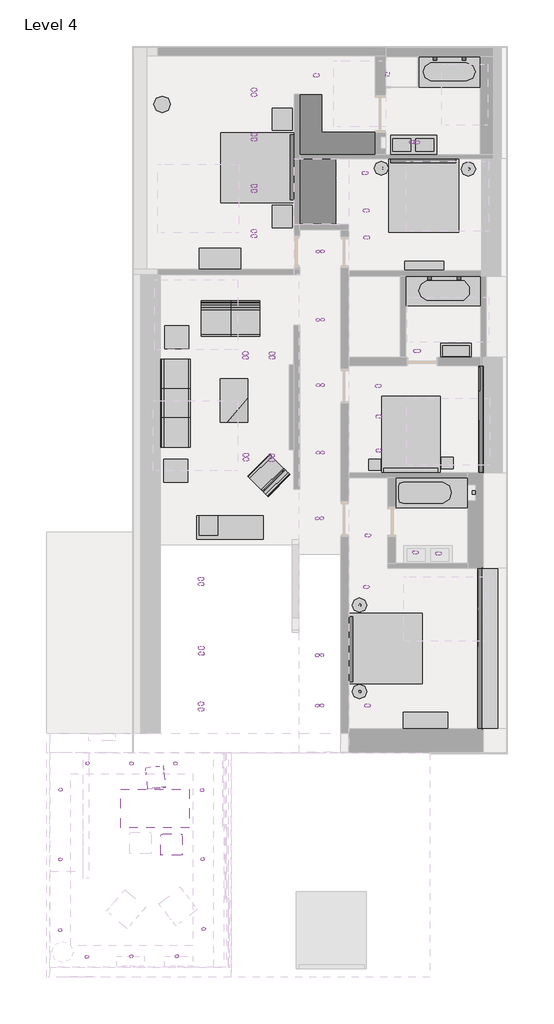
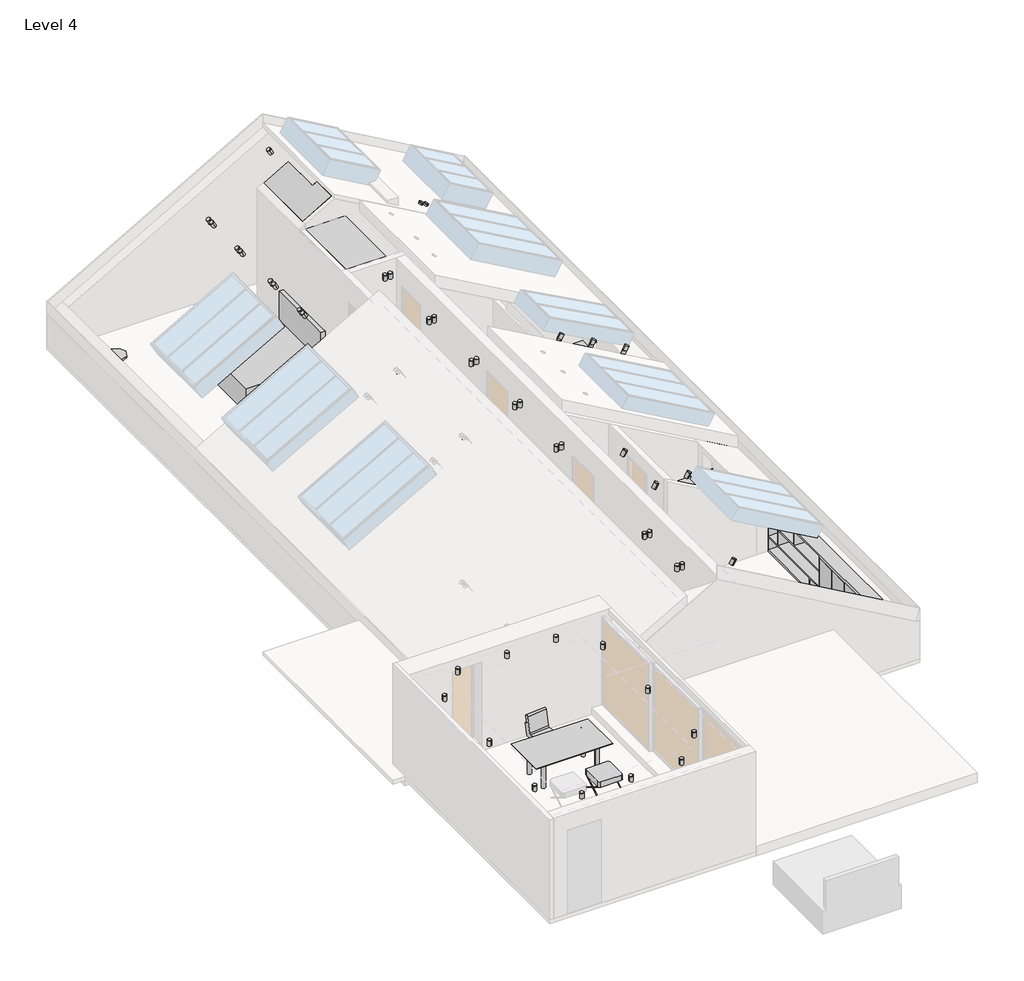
# One storey, part 5 of 5: 76 light fixtures, 32 furniture elements, 5 flow terminals.
"""IFC4 building model written with IfcOpenShell, lengths in millimetres."""

from ifc_helpers import new_model, si_unit, origin, place, context, project, spatial, transform, mapped, element, save
from components import bathtub_01_bathtub_01_98538b22, bathtub_02_bathtub_02_2609c528, bathtub_03_bathtub_03_c426ee23, sink_03_sink_03_69375492, sink_04_sink_04_ce592024, bed_01_bed_01_c8895752, bed_03_bed_03_54b4fd3d, cabinet_cabinet_2f99e284, cabinet_002_cabinet_002_ebadd603, cabinet_1_cabinet_03_9e102cc1, cabinet_3_cabinet_03_0b43aa0a, cabinet_4_cabinet_04_f39191a7, chair_08_chair_08_bae2807b, chair_1_chair_02_2_ef072ba1, chair_1_chair_04_2_7db89e4d, chair_3_chair_06_9fddb003, furniture_02_furniture_02_fe2f7198, furniture_03_furniture_03_c5ecfdc4, furniture_04_furniture_04_b9c663bc, furniture_07_furniture_07_b3681a4d, table_1_table_05_2_f3671101, table_1_table_06_2_fc088d78, table_4_table_02_2cdb1567, table_5_table_07_c8219046, wardrobe_wardrobe_651819e2, downlight_01_standard_4b9499b6, lighting_01_standard_0bba7b14, lighting_03_standard_1bcd569f, lighting_03_standard_314ac76f, lighting_03_standard_dff19e4f, lighting_03_standard_27dd422e

model = new_model("IFC4")

# Units and contexts
model_context = context("Model", 3, world=origin())
ifc_project = project(units=[si_unit("LENGTHUNIT", "METRE", prefix="MILLI")], contexts=[model_context])

# Site, building, storey
site = spatial("IfcSite", under=ifc_project)
building = spatial("IfcBuilding", under=site)
storey = spatial("IfcBuildingStorey", under=building, Name="Level 4", Elevation=8080.0)

# Flow terminals
placement = place(None, origin())
bathtub_01_bathtub_01_shape = bathtub_01_bathtub_01_98538b22(model_context)
element("IfcFlowTerminal", 1, ObjectType="Bathtub_01 : Bathtub_01", at=placement, inside=storey, context=model_context, shape_type="MappedRepresentation", body=[
    mapped(bathtub_01_bathtub_01_shape, transform((0.0, 0.0, 0.0), x_axis=(1.0, 0.0, 0.0), y_axis=(0.0, 1.0, 0.0), z_axis=(0.0, 0.0, 1.0))),
])
bathtub_02_bathtub_02_shape = bathtub_02_bathtub_02_2609c528(model_context)
element("IfcFlowTerminal", 2, ObjectType="Bathtub_02 : Bathtub_02", at=placement, inside=storey, context=model_context, shape_type="MappedRepresentation", body=[
    mapped(bathtub_02_bathtub_02_shape, transform((0.0, 0.0, 0.0), x_axis=(1.0, 0.0, 0.0), y_axis=(0.0, 1.0, 0.0), z_axis=(0.0, 0.0, 1.0))),
])
bathtub_03_bathtub_03_shape = bathtub_03_bathtub_03_c426ee23(model_context)
element("IfcFlowTerminal", 3, ObjectType="Bathtub_03 : Bathtub_03", at=placement, inside=storey, context=model_context, shape_type="MappedRepresentation", body=[
    mapped(bathtub_03_bathtub_03_shape, transform((0.0, 0.0, 0.0), x_axis=(1.0, 0.0, 0.0), y_axis=(0.0, 1.0, 0.0), z_axis=(0.0, 0.0, 1.0))),
])
sink_03_sink_03_shape = sink_03_sink_03_69375492(model_context)
element("IfcFlowTerminal", 4, ObjectType="Sink_03 : Sink_03", at=placement, inside=storey, context=model_context, shape_type="MappedRepresentation", body=[
    mapped(sink_03_sink_03_shape, transform((0.0, 0.0, 0.0), x_axis=(1.0, 0.0, 0.0), y_axis=(0.0, 1.0, 0.0), z_axis=(0.0, 0.0, 1.0))),
])
sink_04_sink_04_shape = sink_04_sink_04_ce592024(model_context)
element("IfcFlowTerminal", 5, ObjectType="Sink_04 : Sink_04", at=placement, inside=storey, context=model_context, shape_type="MappedRepresentation", body=[
    mapped(sink_04_sink_04_shape, transform((5014.1379955, 32034.2650768, 0.0), x_axis=(-1.0, 0.0, 0.0), y_axis=(0.0, -1.0, 0.0), z_axis=(0.0, 0.0, 1.0))),
])

# Furniture
bed_01_bed_01_shape = bed_01_bed_01_c8895752(model_context)
element("IfcFurniture", 6, ObjectType="Bed_01 : Bed_01", at=placement, inside=storey, context=model_context, shape_type="MappedRepresentation", body=[
    mapped(bed_01_bed_01_shape, transform((1579.9371218, 7712.299651, 8080.0), x_axis=(0.0, -1.0, 0.0), y_axis=(1.0, 0.0, 0.0), z_axis=(0.0, 0.0, 1.0))),
])
element("IfcFurniture", 7, ObjectType="Bed_01 : Bed_01", at=placement, inside=storey, context=model_context, shape_type="MappedRepresentation", body=[
    mapped(bed_01_bed_01_shape, transform((2593.3098726, 20237.0775552, 8080.0), x_axis=(-1.0, 0.0, 0.0), y_axis=(0.0, -1.0, 0.0), z_axis=(0.0, 0.0, 1.0))),
])
element("IfcFurniture", 8, ObjectType="Bed_01 : Bed_01", at=placement, inside=storey, context=model_context, shape_type="MappedRepresentation", body=[
    mapped(bed_01_bed_01_shape, transform((-2076.2192271, 21062.6068616, 8080.0), x_axis=(0.0, 1.0, 0.0), y_axis=(-1.0, 0.0, 0.0), z_axis=(0.0, 0.0, 1.0))),
])
bed_03_bed_03_shape = bed_03_bed_03_54b4fd3d(model_context)
element("IfcFurniture", 9, ObjectType="Bed_03 : Bed_03", at=placement, inside=storey, context=model_context, shape_type="MappedRepresentation", body=[
    mapped(bed_03_bed_03_shape, transform((2078.4665483, 13674.1181259, 8080.0), x_axis=(1.0, 0.0, 0.0), y_axis=(0.0, 1.0, 0.0), z_axis=(0.0, 0.0, 1.0))),
])
cabinet_cabinet_shape = cabinet_cabinet_2f99e284(model_context)
element("IfcFurniture", 10, ObjectType="Cabinet : Cabinet", at=placement, inside=storey, context=model_context, shape_type="MappedRepresentation", body=[
    mapped(cabinet_cabinet_shape, transform((0.0, 0.0, 0.0), x_axis=(1.0, 0.0, 0.0), y_axis=(0.0, 1.0, 0.0), z_axis=(0.0, 0.0, 1.0))),
])
cabinet_002_cabinet_002_shape = cabinet_002_cabinet_002_ebadd603(model_context)
element("IfcFurniture", 11, ObjectType="Cabinet_002 : Cabinet_002", at=placement, inside=storey, context=model_context, shape_type="MappedRepresentation", body=[
    mapped(cabinet_002_cabinet_002_shape, transform((0.0, 0.0, 0.0), x_axis=(1.0, 0.0, 0.0), y_axis=(0.0, 1.0, 0.0), z_axis=(0.0, 0.0, 1.0))),
])
cabinet_1_cabinet_03_shape = cabinet_1_cabinet_03_9e102cc1(model_context)
element("IfcFurniture", 12, ObjectType="Cabinet_1 : Cabinet_03", at=placement, inside=storey, context=model_context, shape_type="MappedRepresentation", body=[
    mapped(cabinet_1_cabinet_03_shape, transform((0.0, 0.0, 0.0), x_axis=(1.0, 0.0, 0.0), y_axis=(0.0, 1.0, 0.0), z_axis=(0.0, 0.0, 1.0))),
])
cabinet_3_cabinet_03_shape = cabinet_3_cabinet_03_0b43aa0a(model_context)
element("IfcFurniture", 13, ObjectType="Cabinet_3 : Cabinet_03", at=placement, inside=storey, context=model_context, shape_type="MappedRepresentation", body=[
    mapped(cabinet_3_cabinet_03_shape, transform((0.0, 0.0, 0.0), x_axis=(1.0, 0.0, 0.0), y_axis=(0.0, 1.0, 0.0), z_axis=(0.0, 0.0, 1.0))),
])
cabinet_4_cabinet_04_shape = cabinet_4_cabinet_04_f39191a7(model_context)
element("IfcFurniture", 14, ObjectType="Cabinet_4 : Cabinet_04", at=placement, inside=storey, context=model_context, shape_type="MappedRepresentation", body=[
    mapped(cabinet_4_cabinet_04_shape, transform((0.0, 0.0, 0.0), x_axis=(1.0, 0.0, 0.0), y_axis=(0.0, 1.0, 0.0), z_axis=(0.0, 0.0, 1.0))),
])
chair_08_chair_08_shape = chair_08_chair_08_bae2807b(model_context)
element("IfcFurniture", 15, ObjectType="Chair_08 : Chair_08", at=placement, inside=storey, context=model_context, shape_type="MappedRepresentation", body=[
    mapped(chair_08_chair_08_shape, transform((-2365.9018119, 16880.1471222, 8080.0), x_axis=(1.0, 0.0, 0.0), y_axis=(0.0, 1.0, 0.0), z_axis=(0.0, 0.0, 1.0))),
])
element("IfcFurniture", 16, ObjectType="Chair_08 : Chair_08", at=placement, inside=storey, context=model_context, shape_type="MappedRepresentation", body=[
    mapped(chair_08_chair_08_shape, transform((-3174.517635, 16880.1471222, 8080.0), x_axis=(1.0, 0.0, 0.0), y_axis=(0.0, 1.0, 0.0), z_axis=(0.0, 0.0, 1.0))),
])
element("IfcFurniture", 17, ObjectType="Chair_08 : Chair_08", at=placement, inside=storey, context=model_context, shape_type="MappedRepresentation", body=[
    mapped(chair_08_chair_08_shape, transform((-4386.171498, 15341.0290998, 8080.0), x_axis=(0.0, 1.0, 0.0), y_axis=(-1.0, 0.0, 0.0), z_axis=(0.0, 0.0, 1.0))),
])
element("IfcFurniture", 18, ObjectType="Chair_08 : Chair_08", at=placement, inside=storey, context=model_context, shape_type="MappedRepresentation", body=[
    mapped(chair_08_chair_08_shape, transform((-4386.171498, 14521.0290998, 8080.0), x_axis=(0.0, 1.0, 0.0), y_axis=(-1.0, 0.0, 0.0), z_axis=(0.0, 0.0, 1.0))),
])
element("IfcFurniture", 19, ObjectType="Chair_08 : Chair_08", at=placement, inside=storey, context=model_context, shape_type="MappedRepresentation", body=[
    mapped(chair_08_chair_08_shape, transform((-4386.171498, 13712.4132767, 8080.0), x_axis=(0.0, 1.0, 0.0), y_axis=(-1.0, 0.0, 0.0), z_axis=(0.0, 0.0, 1.0))),
])
chair_1_chair_02_2_shape = chair_1_chair_02_2_ef072ba1(model_context)
element("IfcFurniture", 20, ObjectType="Chair_1 : Chair_02 2", at=placement, inside=storey, context=model_context, shape_type="MappedRepresentation", body=[
    mapped(chair_1_chair_02_2_shape, transform((-4405.2798738, 2269.0749211, 9443.5688055), x_axis=(1.0, 0.0, 0.0), y_axis=(0.0, 1.0, 0.0), z_axis=(0.0, 0.0, 1.0))),
])
chair_1_chair_04_2_shape = chair_1_chair_04_2_7db89e4d(model_context)
element("IfcFurniture", 21, ObjectType="Chair_1 : Chair_04 2", at=placement, inside=storey, context=model_context, shape_type="MappedRepresentation", body=[
    mapped(chair_1_chair_04_2_shape, transform((-4853.9173496, 4128.8623525, 9440.0), x_axis=(1.0, 0.0, 0.0), y_axis=(0.0, 1.0, 0.0), z_axis=(0.0, 0.0, 1.0))),
])
chair_3_chair_06_shape = chair_3_chair_06_9fddb003(model_context)
element("IfcFurniture", 22, ObjectType="Chair_3 : Chair_06", at=placement, inside=storey, context=model_context, shape_type="MappedRepresentation", body=[
    mapped(chair_3_chair_06_shape, transform((0.0, 0.0, 0.0), x_axis=(1.0, 0.0, 0.0), y_axis=(0.0, 1.0, 0.0), z_axis=(0.0, 0.0, 1.0))),
])
furniture_02_furniture_02_shape = furniture_02_furniture_02_fe2f7198(model_context)
element("IfcFurniture", 23, ObjectType="Furniture_02 : Furniture_02", at=placement, inside=storey, context=model_context, shape_type="MappedRepresentation", body=[
    mapped(furniture_02_furniture_02_shape, transform((3244.9243543, 12864.2532922, 8085.0), x_axis=(1.0, 0.0, 0.0), y_axis=(0.0, 1.0, 0.0), z_axis=(0.0, 0.0, 1.0))),
])
element("IfcFurniture", 24, ObjectType="Furniture_02 : Furniture_02", at=placement, inside=storey, context=model_context, shape_type="MappedRepresentation", body=[
    mapped(furniture_02_furniture_02_shape, transform((1229.9243543, 12819.2532922, 8085.0), x_axis=(1.0, 0.0, 0.0), y_axis=(0.0, 1.0, 0.0), z_axis=(0.0, 0.0, 1.0))),
])
furniture_03_furniture_03_shape = furniture_03_furniture_03_c5ecfdc4(model_context)
element("IfcFurniture", 25, ObjectType="Furniture_03 : Furniture_03", at=placement, inside=storey, context=model_context, shape_type="MappedRepresentation", body=[
    mapped(furniture_03_furniture_03_shape, transform((0.0, 0.0, 0.0), x_axis=(1.0, 0.0, 0.0), y_axis=(0.0, 1.0, 0.0), z_axis=(0.0, 0.0, 1.0))),
])
furniture_04_furniture_04_shape = furniture_04_furniture_04_b9c663bc(model_context)
element("IfcFurniture", 26, ObjectType="Furniture_04 : Furniture_04", at=placement, inside=storey, context=model_context, shape_type="MappedRepresentation", body=[
    mapped(furniture_04_furniture_04_shape, transform((0.0, 0.0, 0.0), x_axis=(1.0, 0.0, 0.0), y_axis=(0.0, 1.0, 0.0), z_axis=(0.0, 0.0, 1.0))),
])
furniture_07_furniture_07_shape = furniture_07_furniture_07_b3681a4d(model_context)
element("IfcFurniture", 27, ObjectType="Furniture_07 : Furniture_07", at=placement, inside=storey, context=model_context, shape_type="MappedRepresentation", body=[
    mapped(furniture_07_furniture_07_shape, transform((-4297.8408122, 12651.8815512, 8080.0), x_axis=(1.0, 0.0, 0.0), y_axis=(0.0, 1.0, 0.0), z_axis=(0.0, 0.0, 1.0))),
])
element("IfcFurniture", 28, ObjectType="Furniture_07 : Furniture_07", at=placement, inside=storey, context=model_context, shape_type="MappedRepresentation", body=[
    mapped(furniture_07_furniture_07_shape, transform((-4267.8408122, 16356.8815512, 8080.0), x_axis=(1.0, 0.0, 0.0), y_axis=(0.0, 1.0, 0.0), z_axis=(0.0, 0.0, 1.0))),
])
table_1_table_05_2_shape = table_1_table_05_2_f3671101(model_context)
element("IfcFurniture", 29, ObjectType="Table_1 : Table_05 2", at=placement, inside=storey, context=model_context, shape_type="MappedRepresentation", body=[
    mapped(table_1_table_05_2_shape, transform((808.551266, 6519.1217433, 8080.0), x_axis=(1.0, 0.0, 0.0), y_axis=(0.0, 1.0, 0.0), z_axis=(0.0, 0.0, 1.0))),
])
element("IfcFurniture", 30, ObjectType="Table_1 : Table_05 2", at=placement, inside=storey, context=model_context, shape_type="MappedRepresentation", body=[
    mapped(table_1_table_05_2_shape, transform((808.551266, 8919.1217433, 8080.0), x_axis=(1.0, 0.0, 0.0), y_axis=(0.0, 1.0, 0.0), z_axis=(0.0, 0.0, 1.0))),
])
element("IfcFurniture", 31, ObjectType="Table_1 : Table_05 2", at=placement, inside=storey, context=model_context, shape_type="MappedRepresentation", body=[
    mapped(table_1_table_05_2_shape, transform((1417.051135, 21048.7581238, 8080.0), x_axis=(1.0, 0.0, 0.0), y_axis=(0.0, 1.0, 0.0), z_axis=(0.0, 0.0, 1.0))),
])
element("IfcFurniture", 32, ObjectType="Table_1 : Table_05 2", at=placement, inside=storey, context=model_context, shape_type="MappedRepresentation", body=[
    mapped(table_1_table_05_2_shape, transform((3832.051135, 21028.7581238, 8080.0), x_axis=(1.0, 0.0, 0.0), y_axis=(0.0, 1.0, 0.0), z_axis=(0.0, 0.0, 1.0))),
])
table_1_table_06_2_shape = table_1_table_06_2_fc088d78(model_context)
element("IfcFurniture", 33, ObjectType="Table_1 : Table_06 2", at=placement, inside=storey, context=model_context, shape_type="MappedRepresentation", body=[
    mapped(table_1_table_06_2_shape, transform((-1337.1791365, 19708.449556, 8080.0), x_axis=(1.0, 0.0, 0.0), y_axis=(0.0, 1.0, 0.0), z_axis=(0.0, 0.0, 1.0))),
])
element("IfcFurniture", 34, ObjectType="Table_1 : Table_06 2", at=placement, inside=storey, context=model_context, shape_type="MappedRepresentation", body=[
    mapped(table_1_table_06_2_shape, transform((-1337.1791365, 22408.449556, 8080.0), x_axis=(1.0, 0.0, 0.0), y_axis=(0.0, 1.0, 0.0), z_axis=(0.0, 0.0, 1.0))),
])
table_4_table_02_shape = table_4_table_02_2cdb1567(model_context)
element("IfcFurniture", 35, ObjectType="Table_4 : Table_02", at=placement, inside=storey, context=model_context, shape_type="MappedRepresentation", body=[
    mapped(table_4_table_02_shape, transform((0.0, 0.0, 0.0), x_axis=(1.0, 0.0, 0.0), y_axis=(0.0, 1.0, 0.0), z_axis=(0.0, 0.0, 1.0))),
])
table_5_table_07_shape = table_5_table_07_c8219046(model_context)
element("IfcFurniture", 36, ObjectType="Table_5 : Table_07", at=placement, inside=storey, context=model_context, shape_type="MappedRepresentation", body=[
    mapped(table_5_table_07_shape, transform((0.0, 0.0, 0.0), x_axis=(1.0, 0.0, 0.0), y_axis=(0.0, 1.0, 0.0), z_axis=(0.0, 0.0, 1.0))),
])
wardrobe_wardrobe_shape = wardrobe_wardrobe_651819e2(model_context)
element("IfcFurniture", 37, ObjectType="Wardrobe : Wardrobe", at=placement, inside=storey, context=model_context, shape_type="MappedRepresentation", body=[
    mapped(wardrobe_wardrobe_shape, transform((0.0, 0.0, 0.0), x_axis=(1.0, 0.0, 0.0), y_axis=(0.0, 1.0, 0.0), z_axis=(0.0, 0.0, 1.0))),
])

# Light fixtures
downlight_01_standard_shape = downlight_01_standard_4b9499b6(model_context)
element("IfcLightFixture", 38, ObjectType="Downlight _01 : Standard", at=placement, inside=storey, context=model_context, shape_type="MappedRepresentation", body=[
    mapped(downlight_01_standard_shape, transform((-6840.5019919, 9595.5198069, 6326.6), x_axis=(1.0, 0.0, 0.0), y_axis=(0.0, 1.0, 0.0), z_axis=(0.0, 0.0, 1.0))),
])
element("IfcLightFixture", 39, ObjectType="Downlight _01 : Standard", at=placement, inside=storey, context=model_context, shape_type="MappedRepresentation", body=[
    mapped(downlight_01_standard_shape, transform((-6700.5019919, 9595.5198069, 6326.6), x_axis=(1.0, 0.0, 0.0), y_axis=(0.0, 1.0, 0.0), z_axis=(0.0, 0.0, 1.0))),
])
element("IfcLightFixture", 40, ObjectType="Downlight _01 : Standard", at=placement, inside=storey, context=model_context, shape_type="MappedRepresentation", body=[
    mapped(downlight_01_standard_shape, transform((-6860.5019919, 7665.5198069, 6326.6), x_axis=(1.0, 0.0, 0.0), y_axis=(0.0, 1.0, 0.0), z_axis=(0.0, 0.0, 1.0))),
])
element("IfcLightFixture", 41, ObjectType="Downlight _01 : Standard", at=placement, inside=storey, context=model_context, shape_type="MappedRepresentation", body=[
    mapped(downlight_01_standard_shape, transform((-6720.5019919, 7665.5198069, 6326.6), x_axis=(1.0, 0.0, 0.0), y_axis=(0.0, 1.0, 0.0), z_axis=(0.0, 0.0, 1.0))),
])
element("IfcLightFixture", 42, ObjectType="Downlight _01 : Standard", at=placement, inside=storey, context=model_context, shape_type="MappedRepresentation", body=[
    mapped(downlight_01_standard_shape, transform((-6948.4263983, 5947.8221885, 6326.6), x_axis=(1.0, 0.0, 0.0), y_axis=(0.0, 1.0, 0.0), z_axis=(0.0, 0.0, 1.0))),
])
element("IfcLightFixture", 43, ObjectType="Downlight _01 : Standard", at=placement, inside=storey, context=model_context, shape_type="MappedRepresentation", body=[
    mapped(downlight_01_standard_shape, transform((-6808.4263983, 5947.8221885, 6326.6), x_axis=(1.0, 0.0, 0.0), y_axis=(0.0, 1.0, 0.0), z_axis=(0.0, 0.0, 1.0))),
])
element("IfcLightFixture", 44, ObjectType="Downlight _01 : Standard", at=placement, inside=storey, context=model_context, shape_type="MappedRepresentation", body=[
    mapped(downlight_01_standard_shape, transform((-3516.3974698, -74.4112752, 9501.6), x_axis=(1.0, 0.0, 0.0), y_axis=(0.0, 1.0, 0.0), z_axis=(0.0, 0.0, 1.0))),
])
element("IfcLightFixture", 45, ObjectType="Downlight _01 : Standard", at=placement, inside=storey, context=model_context, shape_type="MappedRepresentation", body=[
    mapped(downlight_01_standard_shape, transform((-3546.3974698, 1865.5887248, 9501.6), x_axis=(1.0, 0.0, 0.0), y_axis=(0.0, 1.0, 0.0), z_axis=(0.0, 0.0, 1.0))),
])
element("IfcLightFixture", 46, ObjectType="Downlight _01 : Standard", at=placement, inside=storey, context=model_context, shape_type="MappedRepresentation", body=[
    mapped(downlight_01_standard_shape, transform((-3561.3974698, 3780.5887248, 9501.6), x_axis=(1.0, 0.0, 0.0), y_axis=(0.0, 1.0, 0.0), z_axis=(0.0, 0.0, 1.0))),
])
element("IfcLightFixture", 47, ObjectType="Downlight _01 : Standard", at=placement, inside=storey, context=model_context, shape_type="MappedRepresentation", body=[
    mapped(downlight_01_standard_shape, transform((-4301.3974698, 4520.5887248, 9501.6), x_axis=(1.0, 0.0, 0.0), y_axis=(0.0, 1.0, 0.0), z_axis=(0.0, 0.0, 1.0))),
])
element("IfcLightFixture", 48, ObjectType="Downlight _01 : Standard", at=placement, inside=storey, context=model_context, shape_type="MappedRepresentation", body=[
    mapped(downlight_01_standard_shape, transform((-5521.3974698, 4520.5887248, 9501.6), x_axis=(1.0, 0.0, 0.0), y_axis=(0.0, 1.0, 0.0), z_axis=(0.0, 0.0, 1.0))),
])
element("IfcLightFixture", 49, ObjectType="Downlight _01 : Standard", at=placement, inside=storey, context=model_context, shape_type="MappedRepresentation", body=[
    mapped(downlight_01_standard_shape, transform((-6741.3974698, 4525.5887248, 9501.6), x_axis=(1.0, 0.0, 0.0), y_axis=(0.0, 1.0, 0.0), z_axis=(0.0, 0.0, 1.0))),
])
element("IfcLightFixture", 50, ObjectType="Downlight _01 : Standard", at=placement, inside=storey, context=model_context, shape_type="MappedRepresentation", body=[
    mapped(downlight_01_standard_shape, transform((-7492.2776996, 3793.8700804, 9501.6), x_axis=(1.0, 0.0, 0.0), y_axis=(0.0, 1.0, 0.0), z_axis=(0.0, 0.0, 1.0))),
])
element("IfcLightFixture", 51, ObjectType="Downlight _01 : Standard", at=placement, inside=storey, context=model_context, shape_type="MappedRepresentation", body=[
    mapped(downlight_01_standard_shape, transform((-7498.3673914, 1856.0640807, 9501.6), x_axis=(1.0, 0.0, 0.0), y_axis=(0.0, 1.0, 0.0), z_axis=(0.0, 0.0, 1.0))),
])
element("IfcLightFixture", 52, ObjectType="Downlight _01 : Standard", at=placement, inside=storey, context=model_context, shape_type="MappedRepresentation", body=[
    mapped(downlight_01_standard_shape, transform((-7504.6725061, -107.9147133, 9501.6), x_axis=(1.0, 0.0, 0.0), y_axis=(0.0, 1.0, 0.0), z_axis=(0.0, 0.0, 1.0))),
])
element("IfcLightFixture", 53, ObjectType="Downlight _01 : Standard", at=placement, inside=storey, context=model_context, shape_type="MappedRepresentation", body=[
    mapped(downlight_01_standard_shape, transform((-6761.3974698, -851.4112752, 9501.6), x_axis=(1.0, 0.0, 0.0), y_axis=(0.0, 1.0, 0.0), z_axis=(0.0, 0.0, 1.0))),
])
element("IfcLightFixture", 54, ObjectType="Downlight _01 : Standard", at=placement, inside=storey, context=model_context, shape_type="MappedRepresentation", body=[
    mapped(downlight_01_standard_shape, transform((-5524.7222871, -834.6027258, 9501.6), x_axis=(1.0, 0.0, 0.0), y_axis=(0.0, 1.0, 0.0), z_axis=(0.0, 0.0, 1.0))),
])
element("IfcLightFixture", 55, ObjectType="Downlight _01 : Standard", at=placement, inside=storey, context=model_context, shape_type="MappedRepresentation", body=[
    mapped(downlight_01_standard_shape, transform((-4263.3777426, -832.4147053, 9501.6), x_axis=(1.0, 0.0, 0.0), y_axis=(0.0, 1.0, 0.0), z_axis=(0.0, 0.0, 1.0))),
])
element("IfcLightFixture", 56, ObjectType="Downlight _01 : Standard", at=placement, inside=storey, context=model_context, shape_type="MappedRepresentation", body=[
    mapped(downlight_01_standard_shape, transform((-870.517752, 23229.8059541, 8714.1008731), x_axis=(0.0, 1.0, 0.0), y_axis=(-0.8677654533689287, 0.0, -0.49697396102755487), z_axis=(-0.49697396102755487, 0.0, 0.8677654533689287))),
])
element("IfcLightFixture", 57, ObjectType="Downlight _01 : Standard", at=placement, inside=storey, context=model_context, shape_type="MappedRepresentation", body=[
    mapped(downlight_01_standard_shape, transform((-870.517752, 23089.8059541, 8714.1008731), x_axis=(0.0, 1.0, 0.0), y_axis=(-0.8677654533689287, 0.0, -0.49697396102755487), z_axis=(-0.49697396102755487, 0.0, 0.8677654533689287))),
])
element("IfcLightFixture", 58, ObjectType="Downlight _01 : Standard", at=placement, inside=storey, context=model_context, shape_type="MappedRepresentation", body=[
    mapped(downlight_01_standard_shape, transform((-870.517752, 21989.8059541, 8714.1008731), x_axis=(0.0, 1.0, 0.0), y_axis=(-0.8677654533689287, 0.0, -0.49697396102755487), z_axis=(-0.49697396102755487, 0.0, 0.8677654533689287))),
])
element("IfcLightFixture", 59, ObjectType="Downlight _01 : Standard", at=placement, inside=storey, context=model_context, shape_type="MappedRepresentation", body=[
    mapped(downlight_01_standard_shape, transform((-870.517752, 21849.8059541, 8714.1008731), x_axis=(0.0, 1.0, 0.0), y_axis=(-0.8677654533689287, 0.0, -0.49697396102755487), z_axis=(-0.49697396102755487, 0.0, 0.8677654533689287))),
])
element("IfcLightFixture", 60, ObjectType="Downlight _01 : Standard", at=placement, inside=storey, context=model_context, shape_type="MappedRepresentation", body=[
    mapped(downlight_01_standard_shape, transform((-870.517752, 20559.8059541, 8714.1008731), x_axis=(0.0, 1.0, 0.0), y_axis=(-0.8677654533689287, 0.0, -0.49697396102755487), z_axis=(-0.49697396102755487, 0.0, 0.8677654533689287))),
])
element("IfcLightFixture", 61, ObjectType="Downlight _01 : Standard", at=placement, inside=storey, context=model_context, shape_type="MappedRepresentation", body=[
    mapped(downlight_01_standard_shape, transform((-870.517752, 20419.8059541, 8714.1008731), x_axis=(0.0, 1.0, 0.0), y_axis=(-0.8677654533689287, 0.0, -0.49697396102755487), z_axis=(-0.49697396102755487, 0.0, 0.8677654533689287))),
])
element("IfcLightFixture", 62, ObjectType="Downlight _01 : Standard", at=placement, inside=storey, context=model_context, shape_type="MappedRepresentation", body=[
    mapped(downlight_01_standard_shape, transform((-870.517752, 19304.8059541, 8714.1008731), x_axis=(0.0, 1.0, 0.0), y_axis=(-0.8677654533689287, 0.0, -0.49697396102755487), z_axis=(-0.49697396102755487, 0.0, 0.8677654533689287))),
])
element("IfcLightFixture", 63, ObjectType="Downlight _01 : Standard", at=placement, inside=storey, context=model_context, shape_type="MappedRepresentation", body=[
    mapped(downlight_01_standard_shape, transform((-870.517752, 19164.8059541, 8714.1008731), x_axis=(0.0, 1.0, 0.0), y_axis=(-0.8677654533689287, 0.0, -0.49697396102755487), z_axis=(-0.49697396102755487, 0.0, 0.8677654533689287))),
])
element("IfcLightFixture", 64, ObjectType="Downlight _01 : Standard", at=placement, inside=storey, context=model_context, shape_type="MappedRepresentation", body=[
    mapped(downlight_01_standard_shape, transform((857.4267934, 23632.1431251, 9703.7040451), x_axis=(0.0, 1.0, 0.0), y_axis=(-0.8677654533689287, 0.0, -0.49697396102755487), z_axis=(-0.49697396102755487, 0.0, 0.8677654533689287))),
])
element("IfcLightFixture", 65, ObjectType="Downlight _01 : Standard", at=placement, inside=storey, context=model_context, shape_type="MappedRepresentation", body=[
    mapped(downlight_01_standard_shape, transform((1026.6015787, 21774.0462651, 8483.8863899), x_axis=(0.0, -1.0, 0.0), y_axis=(0.8677654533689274, 0.0, -0.4969739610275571), z_axis=(0.4969739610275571, 0.0, 0.8677654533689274))),
])
element("IfcLightFixture", 66, ObjectType="Downlight _01 : Standard", at=placement, inside=storey, context=model_context, shape_type="MappedRepresentation", body=[
    mapped(downlight_01_standard_shape, transform((1147.965262, 21766.3603994, 8414.3807532), x_axis=(0.0, -1.0, 0.0), y_axis=(0.8677654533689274, 0.0, -0.4969739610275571), z_axis=(0.4969739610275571, 0.0, 0.8677654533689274))),
])
element("IfcLightFixture", 67, ObjectType="Downlight _01 : Standard", at=placement, inside=storey, context=model_context, shape_type="MappedRepresentation", body=[
    mapped(downlight_01_standard_shape, transform((-233.675945, 19125.5978406, 8997.2276323), x_axis=(0.0, -1.0, 0.0), y_axis=(0.869494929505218, 0.0, -0.4939418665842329), z_axis=(0.4939418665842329, 0.0, 0.869494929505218))),
])
element("IfcLightFixture", 68, ObjectType="Downlight _01 : Standard", at=placement, inside=storey, context=model_context, shape_type="MappedRepresentation", body=[
    mapped(downlight_01_standard_shape, transform((-246.4504435, 19876.159068, 9004.4845574), x_axis=(0.0, -1.0, 0.0), y_axis=(0.869494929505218, 0.0, -0.4939418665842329), z_axis=(0.4939418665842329, 0.0, 0.869494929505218))),
])
element("IfcLightFixture", 69, ObjectType="Downlight _01 : Standard", at=placement, inside=storey, context=model_context, shape_type="MappedRepresentation", body=[
    mapped(downlight_01_standard_shape, transform((-275.7053115, 20915.5978406, 9021.1036355), x_axis=(0.0, -1.0, 0.0), y_axis=(0.869494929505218, 0.0, -0.4939418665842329), z_axis=(0.4939418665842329, 0.0, 0.869494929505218))),
])
element("IfcLightFixture", 70, ObjectType="Downlight _01 : Standard", at=placement, inside=storey, context=model_context, shape_type="MappedRepresentation", body=[
    mapped(downlight_01_standard_shape, transform((-217.6989418, 18740.5978406, 9011.6), x_axis=(1.0, 0.0, 0.0), y_axis=(0.0, 1.0, 0.0), z_axis=(0.0, 0.0, 1.0))),
])
element("IfcLightFixture", 71, ObjectType="Downlight _01 : Standard", at=placement, inside=storey, context=model_context, shape_type="MappedRepresentation", body=[
    mapped(downlight_01_standard_shape, transform((-347.6989418, 18735.5978406, 9011.6), x_axis=(1.0, 0.0, 0.0), y_axis=(0.0, 1.0, 0.0), z_axis=(0.0, 0.0, 1.0))),
])
element("IfcLightFixture", 72, ObjectType="Downlight _01 : Standard", at=placement, inside=storey, context=model_context, shape_type="MappedRepresentation", body=[
    mapped(downlight_01_standard_shape, transform((-217.6989418, 16845.5978406, 9011.6), x_axis=(1.0, 0.0, 0.0), y_axis=(0.0, 1.0, 0.0), z_axis=(0.0, 0.0, 1.0))),
])
element("IfcLightFixture", 73, ObjectType="Downlight _01 : Standard", at=placement, inside=storey, context=model_context, shape_type="MappedRepresentation", body=[
    mapped(downlight_01_standard_shape, transform((-347.6989418, 16840.5978406, 9011.6), x_axis=(1.0, 0.0, 0.0), y_axis=(0.0, 1.0, 0.0), z_axis=(0.0, 0.0, 1.0))),
])
element("IfcLightFixture", 74, ObjectType="Downlight _01 : Standard", at=placement, inside=storey, context=model_context, shape_type="MappedRepresentation", body=[
    mapped(downlight_01_standard_shape, transform((-212.6989418, 15030.5978406, 9011.6), x_axis=(1.0, 0.0, 0.0), y_axis=(0.0, 1.0, 0.0), z_axis=(0.0, 0.0, 1.0))),
])
element("IfcLightFixture", 75, ObjectType="Downlight _01 : Standard", at=placement, inside=storey, context=model_context, shape_type="MappedRepresentation", body=[
    mapped(downlight_01_standard_shape, transform((-342.6989418, 15025.5978406, 9011.6), x_axis=(1.0, 0.0, 0.0), y_axis=(0.0, 1.0, 0.0), z_axis=(0.0, 0.0, 1.0))),
])
element("IfcLightFixture", 76, ObjectType="Downlight _01 : Standard", at=placement, inside=storey, context=model_context, shape_type="MappedRepresentation", body=[
    mapped(downlight_01_standard_shape, transform((-212.6989418, 13155.5978406, 9011.6), x_axis=(1.0, 0.0, 0.0), y_axis=(0.0, 1.0, 0.0), z_axis=(0.0, 0.0, 1.0))),
])
element("IfcLightFixture", 77, ObjectType="Downlight _01 : Standard", at=placement, inside=storey, context=model_context, shape_type="MappedRepresentation", body=[
    mapped(downlight_01_standard_shape, transform((-342.6989418, 13150.5978406, 9011.6), x_axis=(1.0, 0.0, 0.0), y_axis=(0.0, 1.0, 0.0), z_axis=(0.0, 0.0, 1.0))),
])
element("IfcLightFixture", 78, ObjectType="Downlight _01 : Standard", at=placement, inside=storey, context=model_context, shape_type="MappedRepresentation", body=[
    mapped(downlight_01_standard_shape, transform((-232.6989418, 11330.5978406, 9011.6), x_axis=(1.0, 0.0, 0.0), y_axis=(0.0, 1.0, 0.0), z_axis=(0.0, 0.0, 1.0))),
])
element("IfcLightFixture", 79, ObjectType="Downlight _01 : Standard", at=placement, inside=storey, context=model_context, shape_type="MappedRepresentation", body=[
    mapped(downlight_01_standard_shape, transform((-362.6989418, 11325.5978406, 9011.6), x_axis=(1.0, 0.0, 0.0), y_axis=(0.0, 1.0, 0.0), z_axis=(0.0, 0.0, 1.0))),
])
element("IfcLightFixture", 80, ObjectType="Downlight _01 : Standard", at=placement, inside=storey, context=model_context, shape_type="MappedRepresentation", body=[
    mapped(downlight_01_standard_shape, transform((-232.6989418, 7530.5978406, 9011.6), x_axis=(1.0, 0.0, 0.0), y_axis=(0.0, 1.0, 0.0), z_axis=(0.0, 0.0, 1.0))),
])
element("IfcLightFixture", 81, ObjectType="Downlight _01 : Standard", at=placement, inside=storey, context=model_context, shape_type="MappedRepresentation", body=[
    mapped(downlight_01_standard_shape, transform((-362.6989418, 7525.5978406, 9011.6), x_axis=(1.0, 0.0, 0.0), y_axis=(0.0, 1.0, 0.0), z_axis=(0.0, 0.0, 1.0))),
])
element("IfcLightFixture", 82, ObjectType="Downlight _01 : Standard", at=placement, inside=storey, context=model_context, shape_type="MappedRepresentation", body=[
    mapped(downlight_01_standard_shape, transform((-232.6989418, 6130.5978406, 9011.6), x_axis=(1.0, 0.0, 0.0), y_axis=(0.0, 1.0, 0.0), z_axis=(0.0, 0.0, 1.0))),
])
element("IfcLightFixture", 83, ObjectType="Downlight _01 : Standard", at=placement, inside=storey, context=model_context, shape_type="MappedRepresentation", body=[
    mapped(downlight_01_standard_shape, transform((-362.6989418, 6125.5978406, 9011.6), x_axis=(1.0, 0.0, 0.0), y_axis=(0.0, 1.0, 0.0), z_axis=(0.0, 0.0, 1.0))),
])
element("IfcLightFixture", 84, ObjectType="Downlight _01 : Standard", at=placement, inside=storey, context=model_context, shape_type="MappedRepresentation", body=[
    mapped(downlight_01_standard_shape, transform((-397.1060125, 13073.8437803, 8915.8610097), x_axis=(0.0, 1.0, 0.0), y_axis=(-0.8712138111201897, 0.0, -0.4909037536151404), z_axis=(-0.4909037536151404, 0.0, 0.8712138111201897))),
])
element("IfcLightFixture", 85, ObjectType="Downlight _01 : Standard", at=placement, inside=storey, context=model_context, shape_type="MappedRepresentation", body=[
    mapped(downlight_01_standard_shape, transform((-389.6903387, 12948.6315184, 8920.0395272), x_axis=(0.0, 1.0, 0.0), y_axis=(-0.8712138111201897, 0.0, -0.4909037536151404), z_axis=(-0.4909037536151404, 0.0, 0.8712138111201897))),
])
element("IfcLightFixture", 86, ObjectType="Downlight _01 : Standard", at=placement, inside=storey, context=model_context, shape_type="MappedRepresentation", body=[
    mapped(downlight_01_standard_shape, transform((-383.4545528, 15905.3882422, 8923.553212), x_axis=(0.0, 1.0, 0.0), y_axis=(-0.8712138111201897, 0.0, -0.4909037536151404), z_axis=(-0.4909037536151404, 0.0, 0.8712138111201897))),
])
element("IfcLightFixture", 87, ObjectType="Downlight _01 : Standard", at=placement, inside=storey, context=model_context, shape_type="MappedRepresentation", body=[
    mapped(downlight_01_standard_shape, transform((-384.8880207, 15795.0304195, 8922.7454943), x_axis=(0.0, 1.0, 0.0), y_axis=(-0.8712138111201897, 0.0, -0.4909037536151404), z_axis=(-0.4909037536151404, 0.0, 0.8712138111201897))),
])
element("IfcLightFixture", 88, ObjectType="Downlight _01 : Standard", at=placement, inside=storey, context=model_context, shape_type="MappedRepresentation", body=[
    mapped(downlight_01_standard_shape, transform((-1124.3029861, 15911.1327744, 8506.1065736), x_axis=(0.0, 1.0, 0.0), y_axis=(-0.8712138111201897, 0.0, -0.4909037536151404), z_axis=(-0.4909037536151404, 0.0, 0.8712138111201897))),
])
element("IfcLightFixture", 89, ObjectType="Downlight _01 : Standard", at=placement, inside=storey, context=model_context, shape_type="MappedRepresentation", body=[
    mapped(downlight_01_standard_shape, transform((-1122.7792403, 15790.9251995, 8506.9651602), x_axis=(0.0, 1.0, 0.0), y_axis=(-0.8712138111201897, 0.0, -0.4909037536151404), z_axis=(-0.4909037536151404, 0.0, 0.8712138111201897))),
])
element("IfcLightFixture", 90, ObjectType="Downlight _01 : Standard", at=placement, inside=storey, context=model_context, shape_type="MappedRepresentation", body=[
    mapped(downlight_01_standard_shape, transform((-1110.3062934, 13090.8789638, 8513.9933046), x_axis=(0.0, 1.0, 0.0), y_axis=(-0.8712138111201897, 0.0, -0.4909037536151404), z_axis=(-0.4909037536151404, 0.0, 0.8712138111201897))),
])
element("IfcLightFixture", 91, ObjectType="Downlight _01 : Standard", at=placement, inside=storey, context=model_context, shape_type="MappedRepresentation", body=[
    mapped(downlight_01_standard_shape, transform((-1109.2810781, 12967.7614006, 8514.5709837), x_axis=(0.0, 1.0, 0.0), y_axis=(-0.8712138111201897, 0.0, -0.4909037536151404), z_axis=(-0.4909037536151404, 0.0, 0.8712138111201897))),
])
element("IfcLightFixture", 92, ObjectType="Downlight _01 : Standard", at=placement, inside=storey, context=model_context, shape_type="MappedRepresentation", body=[
    mapped(downlight_01_standard_shape, transform((89.8102467, 15004.4155363, 8838.4618989), x_axis=(0.0, -1.0, 0.0), y_axis=(0.869494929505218, 0.0, -0.4939418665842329), z_axis=(0.4939418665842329, 0.0, 0.869494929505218))),
])
element("IfcLightFixture", 93, ObjectType="Downlight _01 : Standard", at=placement, inside=storey, context=model_context, shape_type="MappedRepresentation", body=[
    mapped(downlight_01_standard_shape, transform((105.4462788, 14152.6606873, 8829.5793965), x_axis=(0.0, -1.0, 0.0), y_axis=(0.869494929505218, 0.0, -0.4939418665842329), z_axis=(0.4939418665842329, 0.0, 0.869494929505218))),
])
element("IfcLightFixture", 94, ObjectType="Downlight _01 : Standard", at=placement, inside=storey, context=model_context, shape_type="MappedRepresentation", body=[
    mapped(downlight_01_standard_shape, transform((112.5843553, 13209.9659447, 8825.5244047), x_axis=(0.0, -1.0, 0.0), y_axis=(0.869494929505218, 0.0, -0.4939418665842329), z_axis=(0.4939418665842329, 0.0, 0.869494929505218))),
])
element("IfcLightFixture", 95, ObjectType="Downlight _01 : Standard", at=placement, inside=storey, context=model_context, shape_type="MappedRepresentation", body=[
    mapped(downlight_01_standard_shape, transform((1760.9242613, 10348.4089612, 7888.597209), x_axis=(0.0, -1.0, 0.0), y_axis=(0.8686315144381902, 0.0, -0.4954586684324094), z_axis=(0.4954586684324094, 0.0, 0.8686315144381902))),
])
element("IfcLightFixture", 96, ObjectType="Downlight _01 : Standard", at=placement, inside=storey, context=model_context, shape_type="MappedRepresentation", body=[
    mapped(downlight_01_standard_shape, transform((1119.6081447, 10383.0892747, 8254.3974637), x_axis=(0.0, -1.0, 0.0), y_axis=(0.8686315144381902, 0.0, -0.4954586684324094), z_axis=(0.4954586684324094, 0.0, 0.8686315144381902))),
])
element("IfcLightFixture", 97, ObjectType="Downlight _01 : Standard", at=placement, inside=storey, context=model_context, shape_type="MappedRepresentation", body=[
    mapped(downlight_01_standard_shape, transform((-200.1299039, 10855.3687748, 9007.1627564), x_axis=(0.0, -1.0, 0.0), y_axis=(0.8686315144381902, 0.0, -0.4954586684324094), z_axis=(0.4954586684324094, 0.0, 0.8686315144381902))),
])
element("IfcLightFixture", 98, ObjectType="Downlight _01 : Standard", at=placement, inside=storey, context=model_context, shape_type="MappedRepresentation", body=[
    mapped(downlight_01_standard_shape, transform((-243.7048301, 9426.1517264, 9032.0174554), x_axis=(0.0, -1.0, 0.0), y_axis=(0.8686315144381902, 0.0, -0.4954586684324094), z_axis=(0.4954586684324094, 0.0, 0.8686315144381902))),
])
element("IfcLightFixture", 99, ObjectType="Downlight _01 : Standard", at=placement, inside=storey, context=model_context, shape_type="MappedRepresentation", body=[
    mapped(downlight_01_standard_shape, transform((-216.0847563, 6130.5991416, 9016.2632435), x_axis=(0.0, -1.0, 0.0), y_axis=(0.8686315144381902, 0.0, -0.4954586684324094), z_axis=(0.4954586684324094, 0.0, 0.8686315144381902))),
])
element("IfcLightFixture", 100, ObjectType="Downlight _01 : Standard", at=placement, inside=storey, context=model_context, shape_type="MappedRepresentation", body=[
    mapped(downlight_01_standard_shape, transform((-2358.2834656, 6020.6607538, 7810.7943074), x_axis=(0.0, 1.0, 0.0), y_axis=(-0.8712138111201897, 0.0, -0.4909037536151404), z_axis=(-0.4909037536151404, 0.0, 0.8712138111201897))),
])
element("IfcLightFixture", 101, ObjectType="Downlight _01 : Standard", at=placement, inside=storey, context=model_context, shape_type="MappedRepresentation", body=[
    mapped(downlight_01_standard_shape, transform((-2356.3394719, 6177.9482285, 7811.8896916), x_axis=(0.0, 1.0, 0.0), y_axis=(-0.8712138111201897, 0.0, -0.4909037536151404), z_axis=(-0.4909037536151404, 0.0, 0.8712138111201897))),
])
element("IfcLightFixture", 102, ObjectType="Downlight _01 : Standard", at=placement, inside=storey, context=model_context, shape_type="MappedRepresentation", body=[
    mapped(downlight_01_standard_shape, transform((-2349.5713275, 7570.6607538, 7815.703345), x_axis=(0.0, 1.0, 0.0), y_axis=(-0.8712138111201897, 0.0, -0.4909037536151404), z_axis=(-0.4909037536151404, 0.0, 0.8712138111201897))),
])
element("IfcLightFixture", 103, ObjectType="Downlight _01 : Standard", at=placement, inside=storey, context=model_context, shape_type="MappedRepresentation", body=[
    mapped(downlight_01_standard_shape, transform((-2347.6273338, 7727.9482285, 7816.7987292), x_axis=(0.0, 1.0, 0.0), y_axis=(-0.8712138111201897, 0.0, -0.4909037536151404), z_axis=(-0.4909037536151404, 0.0, 0.8712138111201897))),
])
element("IfcLightFixture", 104, ObjectType="Downlight _01 : Standard", at=placement, inside=storey, context=model_context, shape_type="MappedRepresentation", body=[
    mapped(downlight_01_standard_shape, transform((-2358.2834656, 9500.6607538, 7810.7943074), x_axis=(0.0, 1.0, 0.0), y_axis=(-0.8712138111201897, 0.0, -0.4909037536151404), z_axis=(-0.4909037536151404, 0.0, 0.8712138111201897))),
])
element("IfcLightFixture", 105, ObjectType="Downlight _01 : Standard", at=placement, inside=storey, context=model_context, shape_type="MappedRepresentation", body=[
    mapped(downlight_01_standard_shape, transform((-2356.3394719, 9647.9482285, 7811.8896916), x_axis=(0.0, 1.0, 0.0), y_axis=(-0.8712138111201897, 0.0, -0.4909037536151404), z_axis=(-0.4909037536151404, 0.0, 0.8712138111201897))),
])
lighting_01_standard_shape = lighting_01_standard_0bba7b14(model_context)
element("IfcLightFixture", 106, ObjectType="Lighting_01 : Standard", at=placement, inside=storey, context=model_context, shape_type="MappedRepresentation", body=[
    mapped(lighting_01_standard_shape, transform((0.0, 0.0, 0.0), x_axis=(1.0, 0.0, 0.0), y_axis=(0.0, 1.0, 0.0), z_axis=(0.0, 0.0, 1.0))),
])
lighting_03_standard_shape = lighting_03_standard_1bcd569f(model_context)
element("IfcLightFixture", 107, ObjectType="Lighting_03 : Standard", at=placement, inside=storey, context=model_context, shape_type="MappedRepresentation", body=[
    mapped(lighting_03_standard_shape, transform((2908.5515521, 24150.5978406, 9271.6398431), x_axis=(1.0, 0.0, 0.0), y_axis=(0.0, 0.0, 1.0), z_axis=(0.0, -1.0, 0.0))),
])
element("IfcLightFixture", 108, ObjectType="Lighting_03 : Standard", at=placement, inside=storey, context=model_context, shape_type="MappedRepresentation", body=[
    mapped(lighting_03_standard_shape, transform((3708.5515521, 24150.5978406, 9271.6398431), x_axis=(1.0, 0.0, 0.0), y_axis=(0.0, 0.0, 1.0), z_axis=(0.0, -1.0, 0.0))),
])
element("IfcLightFixture", 109, ObjectType="Lighting_03 : Standard", at=placement, inside=storey, context=model_context, shape_type="MappedRepresentation", body=[
    mapped(lighting_03_standard_shape, transform((2757.3010582, 18050.5978406, 9285.5267846), x_axis=(1.0, 0.0, 0.0), y_axis=(0.0, 0.0, 1.0), z_axis=(0.0, -1.0, 0.0))),
])
element("IfcLightFixture", 110, ObjectType="Lighting_03 : Standard", at=placement, inside=storey, context=model_context, shape_type="MappedRepresentation", body=[
    mapped(lighting_03_standard_shape, transform((3577.3010582, 18050.5978406, 9300.4218023), x_axis=(1.0, 0.0, 0.0), y_axis=(0.0, 0.0, 1.0), z_axis=(0.0, -1.0, 0.0))),
])
lighting_03_standard_2_shape = lighting_03_standard_314ac76f(model_context)
element("IfcLightFixture", 111, ObjectType="Lighting_03 : Standard", at=placement, inside=storey, context=model_context, shape_type="MappedRepresentation", body=[
    mapped(lighting_03_standard_2_shape, transform((1532.3010582, 23660.5978406, 10444.9038589), x_axis=(0.0, 1.0, 0.0), y_axis=(0.0, 0.0, 1.0), z_axis=(1.0, 0.0, 0.0))),
])
lighting_03_standard_3_shape = lighting_03_standard_dff19e4f(model_context)
element("IfcLightFixture", 112, ObjectType="Lighting_03 : Standard", at=placement, inside=storey, context=model_context, shape_type="MappedRepresentation", body=[
    mapped(lighting_03_standard_3_shape, transform((4035.1847118, 12040.5978406, 8900.0), x_axis=(0.0, 1.0, 0.0), y_axis=(0.0, 0.0, -1.0), z_axis=(-1.0, 0.0, 0.0))),
])
lighting_03_standard_4_shape = lighting_03_standard_27dd422e(model_context)
element("IfcLightFixture", 113, ObjectType="Lighting_03 : Standard", at=placement, inside=storey, context=model_context, shape_type="MappedRepresentation", body=[
    mapped(lighting_03_standard_4_shape, transform((4262.3010582, 17725.5978406, 8812.9019777), x_axis=(0.0, 1.0, 0.0), y_axis=(-1.0, 0.0, 0.0), z_axis=(0.0, 0.0, 1.0))),
])

save(model, "model.ifc")
